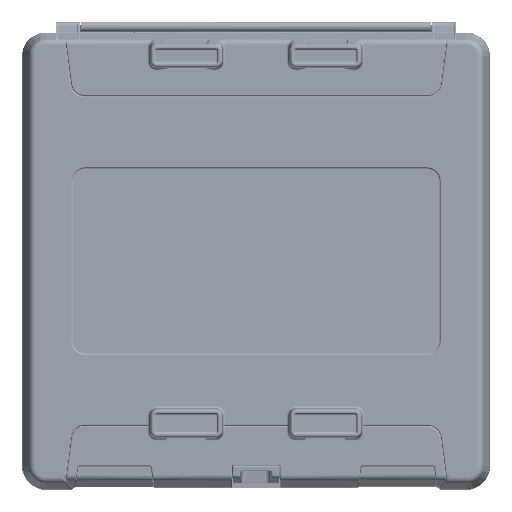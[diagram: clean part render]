
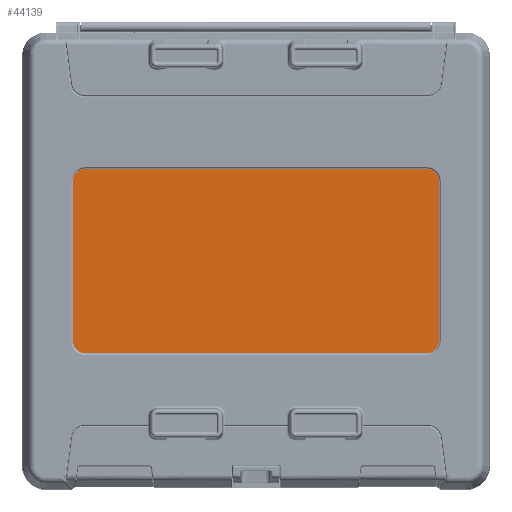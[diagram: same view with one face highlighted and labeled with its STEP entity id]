
A CAD part, top view. The second image highlights one B-rep face of the part: STEP entity #44139.
In plain terms, the highlighted planar face has unit normal (0, 0, 1).
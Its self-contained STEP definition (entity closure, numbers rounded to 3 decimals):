
#13433=CIRCLE('',#236264,10.628);
#13436=CIRCLE('',#236269,10.628);
#14085=CIRCLE('',#237746,10.628);
#14087=CIRCLE('',#237750,10.628);
#44139=ADVANCED_FACE('',(#60933),#47547,.F.);
#47547=PLANE('',#238682);
#60933=FACE_OUTER_BOUND('',#75334,.T.);
#75334=EDGE_LOOP('',(#136467,#136468,#136469,#136470,#136471,#136472,#136473,
#136474));
#136467=ORIENTED_EDGE('',*,*,#186414,.T.);
#136468=ORIENTED_EDGE('',*,*,#188408,.T.);
#136469=ORIENTED_EDGE('',*,*,#188410,.T.);
#136470=ORIENTED_EDGE('',*,*,#188411,.T.);
#136471=ORIENTED_EDGE('',*,*,#186422,.T.);
#136472=ORIENTED_EDGE('',*,*,#186420,.T.);
#136473=ORIENTED_EDGE('',*,*,#186418,.T.);
#136474=ORIENTED_EDGE('',*,*,#186416,.T.);
#156674=VERTEX_POINT('',#437482);
#156675=VERTEX_POINT('',#437484);
#156676=VERTEX_POINT('',#437488);
#156677=VERTEX_POINT('',#437492);
#156678=VERTEX_POINT('',#437496);
#156679=VERTEX_POINT('',#437500);
#157747=VERTEX_POINT('',#449043);
#157748=VERTEX_POINT('',#449047);
#186414=EDGE_CURVE('',#156675,#156674,#203134,.T.);
#186416=EDGE_CURVE('',#156676,#156675,#13433,.T.);
#186418=EDGE_CURVE('',#156677,#156676,#203135,.T.);
#186420=EDGE_CURVE('',#156678,#156677,#13436,.T.);
#186422=EDGE_CURVE('',#156679,#156678,#203136,.T.);
#188408=EDGE_CURVE('',#156674,#157747,#14085,.T.);
#188410=EDGE_CURVE('',#157747,#157748,#203865,.T.);
#188411=EDGE_CURVE('',#157748,#156679,#14087,.T.);
#203134=LINE('',#437483,#216435);
#203135=LINE('',#437491,#216436);
#203136=LINE('',#437499,#216437);
#203865=LINE('',#449048,#217166);
#216435=VECTOR('',#287711,1.);
#216436=VECTOR('',#287722,1.);
#216437=VECTOR('',#287733,1.);
#217166=VECTOR('',#291416,1.);
#236264=AXIS2_PLACEMENT_3D('',#437487,#287716,#287717);
#236269=AXIS2_PLACEMENT_3D('',#437495,#287727,#287728);
#237746=AXIS2_PLACEMENT_3D('',#449044,#291410,#291411);
#237750=AXIS2_PLACEMENT_3D('',#449050,#291419,#291420);
#238682=AXIS2_PLACEMENT_3D('',#456776,#293482,#293483);
#287711=DIRECTION('',(-1.,0.,0.));
#287716=DIRECTION('',(0.,0.,1.));
#287717=DIRECTION('',(-1.,0.,0.));
#287722=DIRECTION('',(0.,1.,0.));
#287727=DIRECTION('',(0.,0.,1.));
#287728=DIRECTION('',(-1.,0.,0.));
#287733=DIRECTION('',(1.,0.,0.));
#291410=DIRECTION('',(0.,0.,1.));
#291411=DIRECTION('',(1.,0.,0.));
#291416=DIRECTION('',(0.,-1.,0.));
#291419=DIRECTION('',(0.,0.,1.));
#291420=DIRECTION('',(1.,0.,0.));
#293482=DIRECTION('',(0.,0.,-1.));
#293483=DIRECTION('',(1.,0.,0.));
#437482=CARTESIAN_POINT('',(-142.,-118.372,24.));
#437483=CARTESIAN_POINT('',(0.,-118.372,24.));
#437484=CARTESIAN_POINT('',(142.,-118.372,24.));
#437487=CARTESIAN_POINT('',(142.,-129.,24.));
#437488=CARTESIAN_POINT('',(152.628,-129.,24.));
#437491=CARTESIAN_POINT('',(152.628,0.,24.));
#437492=CARTESIAN_POINT('',(152.628,-261.5,24.));
#437495=CARTESIAN_POINT('',(142.,-261.5,24.));
#437496=CARTESIAN_POINT('',(142.,-272.128,24.));
#437499=CARTESIAN_POINT('',(0.,-272.128,24.));
#437500=CARTESIAN_POINT('',(-142.,-272.128,24.));
#449043=CARTESIAN_POINT('',(-152.628,-129.,24.));
#449044=CARTESIAN_POINT('',(-142.,-129.,24.));
#449047=CARTESIAN_POINT('',(-152.628,-261.5,24.));
#449048=CARTESIAN_POINT('',(-152.628,0.,24.));
#449050=CARTESIAN_POINT('',(-142.,-261.5,24.));
#456776=CARTESIAN_POINT('',(0.,0.,24.));
